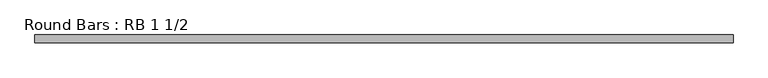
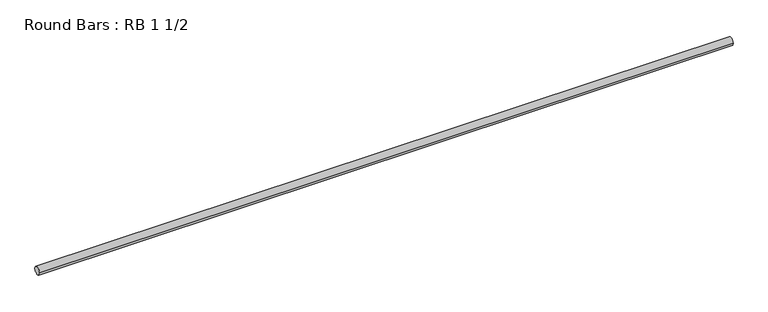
"""IFC4 building model written with IfcOpenShell, lengths in millimetres: member geometry, Round Bars : RB 1 1/2."""

from ifc_helpers import new_model, si_unit, point, frame, origin, origin_2d, place, context, project, spatial, circle_curve, trimmed, segment, composite_curve, outline, extrude, source, transform, mapped, element, save


def round_bars_rb_1_1_2_2cc5c88c(model_context):
    return source(origin(), model_context, "Body", "SweptSolid", [
        extrude(outline(composite_curve([segment(trimmed(circle_curve(origin_2d(), 19.05), [point((19.05, 0.0))], [point((-19.05, 0.0))], False, "CARTESIAN"), True, "CONTINUOUS"), segment(trimmed(circle_curve(origin_2d(), 19.05), [point((-19.05, 0.0))], [point((19.05, 0.0))], False, "CARTESIAN"), True, "CONTINUOUS")], self_intersect=False)), frame((-1616.2899054, 0.0, 0.0), z_axis=(1.0, 0.0, 0.0), x_axis=(0.0, 1.0, 0.0)), (0.0, 0.0, 1.0), 3298.7680387),
    ])


if __name__ == "__main__":
    model = new_model("IFC4")
    model_context = context("Model", 3, world=origin())
    ifc_project = project(units=[si_unit("LENGTHUNIT", "METRE", prefix="MILLI")], contexts=[model_context])
    site = spatial("IfcSite", under=ifc_project)
    building = spatial("IfcBuilding", under=site)
    placement = place(None, origin())
    round_bars_rb_1_1_2_shape = round_bars_rb_1_1_2_2cc5c88c(model_context)
    element("IfcMember", 1, ObjectType="Round Bars : RB 1 1/2", at=placement, inside=building, context=model_context, shape_type="MappedRepresentation", body=[
        mapped(round_bars_rb_1_1_2_shape, transform((0.0, 0.0, 0.0), x_axis=(1.0, 0.0, 0.0), y_axis=(0.0, 1.0, 0.0), z_axis=(0.0, 0.0, 1.0))),
    ])
    save(model, "model.ifc")
